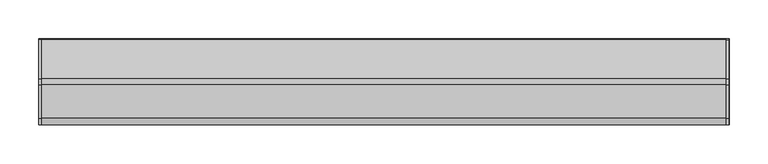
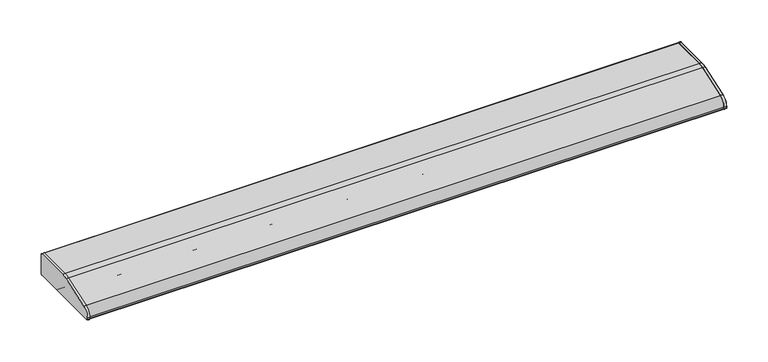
"""IFC4 building model written with IfcOpenShell, lengths in millimetres: light fixture geometry, HermanMiller_SupplementalProducts_G6136_UtilityTaskLight : AO Etho Canvas 42W."""

from ifc_helpers import new_model, si_unit, point, frame, frame_2d, origin, place, context, project, spatial, polyline, circle_curve, trimmed, segment, composite_curve, outline, extrude, source, transform, mapped, element, save


def light_fixture_843a8269(model_context):
    return source(origin(), model_context, "Body", "SweptSolid", [
        extrude(outline(composite_curve([segment(polyline([(53.975, 1562.1), (-53.975, 1562.1)]), True, "CONTINUOUS"), segment(trimmed(circle_curve(frame_2d((-53.975, 1563.6875)), 1.5875), [point((-53.975, 1562.1))], [point((-55.5625, 1563.6875))], False, "CARTESIAN"), True, "CONTINUOUS"), segment(polyline([(-55.5625, 1563.6875), (-55.5625, 1565.7285714)]), True, "CONTINUOUS"), segment(trimmed(circle_curve(frame_2d((-42.8625, 1565.7285714)), 12.7), [point((-55.5625, 1565.7285714))], [point((-46.9814189, 1577.7420849))], False, "CARTESIAN"), True, "CONTINUOUS"), segment(polyline([(-46.9814189, 1577.7420849), (-4.0045045, 1592.477027)]), True, "CONTINUOUS"), segment(trimmed(circle_curve(frame_2d((4.2333333, 1568.45)), 25.4), [point((-4.0045045, 1592.477027))], [point((4.2333333, 1593.85))], False, "CARTESIAN"), True, "CONTINUOUS"), segment(polyline([(4.2333333, 1593.85), (53.975, 1593.85)]), True, "CONTINUOUS"), segment(trimmed(circle_curve(frame_2d((53.975, 1592.2625)), 1.5875), [point((53.975, 1593.85))], [point((55.5625, 1592.2625))], False, "CARTESIAN"), True, "CONTINUOUS"), segment(polyline([(55.5625, 1592.2625), (55.5625, 1563.6875)]), True, "CONTINUOUS"), segment(trimmed(circle_curve(frame_2d((53.975, 1563.6875)), 1.5875), [point((55.5625, 1563.6875))], [point((53.975, 1562.1))], False, "CARTESIAN"), True, "CONTINUOUS")], self_intersect=False)), frame((441.833, 0.0, 0.0), z_axis=(1.0, 0.0, 0.0), x_axis=(0.0, 1.0, 0.0)), (0.0, 0.0, 1.0), 3.175),
        extrude(outline(composite_curve([segment(trimmed(circle_curve(frame_2d((53.975, 1592.2625)), 1.5875), [point((53.975, 1593.85))], [point((55.5625, 1592.2625))], False, "CARTESIAN"), True, "CONTINUOUS"), segment(polyline([(55.5625, 1592.2625), (55.5625, 1563.6875)]), True, "CONTINUOUS"), segment(trimmed(circle_curve(frame_2d((53.975, 1563.6875)), 1.5875), [point((55.5625, 1563.6875))], [point((53.975, 1562.1))], False, "CARTESIAN"), True, "CONTINUOUS"), segment(polyline([(53.975, 1562.1), (-53.975, 1562.1)]), True, "CONTINUOUS"), segment(trimmed(circle_curve(frame_2d((-53.975, 1563.6875)), 1.5875), [point((-53.975, 1562.1))], [point((-55.5625, 1563.6875))], False, "CARTESIAN"), True, "CONTINUOUS"), segment(polyline([(-55.5625, 1563.6875), (-55.5625, 1565.7285714)]), True, "CONTINUOUS"), segment(trimmed(circle_curve(frame_2d((-42.8625, 1565.7285714)), 12.7), [point((-55.5625, 1565.7285714))], [point((-46.9814189, 1577.7420849))], False, "CARTESIAN"), True, "CONTINUOUS"), segment(polyline([(-46.9814189, 1577.7420849), (-4.0045045, 1592.477027)]), True, "CONTINUOUS"), segment(trimmed(circle_curve(frame_2d((4.2333333, 1568.45)), 25.4), [point((-4.0045045, 1592.477027))], [point((4.2333333, 1593.85))], False, "CARTESIAN"), True, "CONTINUOUS"), segment(polyline([(4.2333333, 1593.85), (53.975, 1593.85)]), True, "CONTINUOUS")], self_intersect=False)), frame((-445.008, 0.0, 0.0), z_axis=(1.0, 0.0, 0.0), x_axis=(0.0, 1.0, 0.0)), (0.0, 0.0, 1.0), 3.175),
        extrude(outline(composite_curve([segment(polyline([(55.5625, 1592.2625), (55.5625, 1563.6875)]), True, "CONTINUOUS"), segment(trimmed(circle_curve(frame_2d((53.975, 1563.6875)), 1.5875), [point((55.5625, 1563.6875))], [point((53.975, 1562.1))], False, "CARTESIAN"), True, "CONTINUOUS"), segment(polyline([(53.975, 1562.1), (19.05, 1562.1)]), True, "CONTINUOUS"), segment(trimmed(circle_curve(frame_2d((19.05, 1563.6875)), 1.5875), [point((19.05, 1562.1))], [point((17.4625, 1563.6875))], False, "CARTESIAN"), True, "CONTINUOUS"), segment(polyline([(17.4625, 1563.6875), (17.4625, 1592.2625), (4.4979167, 1592.2625)]), True, "CONTINUOUS"), segment(trimmed(circle_curve(frame_2d((4.4979167, 1566.8625)), 25.4), [point((4.4979167, 1592.2625))], [point((-3.7399212, 1590.889527))], True, "CARTESIAN"), True, "CONTINUOUS"), segment(polyline([(-3.7399212, 1590.889527), (-37.4564189, 1579.3295849)]), True, "CONTINUOUS"), segment(trimmed(circle_curve(frame_2d((-33.3375, 1567.3160714)), 12.7), [point((-37.4564189, 1579.3295849))], [point((-46.0375, 1567.3160714))], True, "CARTESIAN"), True, "CONTINUOUS"), segment(polyline([(-46.0375, 1567.3160714), (-46.0375, 1563.6875)]), True, "CONTINUOUS"), segment(trimmed(circle_curve(frame_2d((-47.625, 1563.6875)), 1.5875), [point((-46.0375, 1563.6875))], [point((-47.625, 1562.1))], False, "CARTESIAN"), True, "CONTINUOUS"), segment(polyline([(-47.625, 1562.1), (-53.975, 1562.1)]), True, "CONTINUOUS"), segment(trimmed(circle_curve(frame_2d((-53.975, 1563.6875)), 1.5875), [point((-53.975, 1562.1))], [point((-55.5625, 1563.6875))], False, "CARTESIAN"), True, "CONTINUOUS"), segment(polyline([(-55.5625, 1563.6875), (-55.5625, 1565.7285714)]), True, "CONTINUOUS"), segment(trimmed(circle_curve(frame_2d((-42.8625, 1565.7285714)), 12.7), [point((-55.5625, 1565.7285714))], [point((-46.9814189, 1577.7420849))], False, "CARTESIAN"), True, "CONTINUOUS"), segment(polyline([(-46.9814189, 1577.7420849), (-4.0045045, 1592.477027)]), True, "CONTINUOUS"), segment(trimmed(circle_curve(frame_2d((4.2333333, 1568.45)), 25.4), [point((-4.0045045, 1592.477027))], [point((4.2333333, 1593.85))], False, "CARTESIAN"), True, "CONTINUOUS"), segment(polyline([(4.2333333, 1593.85), (53.975, 1593.85)]), True, "CONTINUOUS"), segment(trimmed(circle_curve(frame_2d((53.975, 1592.2625)), 1.5875), [point((53.975, 1593.85))], [point((55.5625, 1592.2625))], False, "CARTESIAN"), True, "CONTINUOUS")], self_intersect=False)), frame((-445.008, 0.0, 0.0), z_axis=(1.0, 0.0, 0.0), x_axis=(0.0, 1.0, 0.0)), (0.0, 0.0, 1.0), 890.4820011),
        extrude(outline(composite_curve([segment(trimmed(circle_curve(frame_2d((1.5875, 1579.5625)), 9.525), [point((-7.9375, 1579.5625))], [point((11.1125, 1579.5625))], False, "CARTESIAN"), True, "CONTINUOUS"), segment(trimmed(circle_curve(frame_2d((1.5875, 1579.5625)), 9.525), [point((11.1125, 1579.5625))], [point((-7.9375, 1579.5625))], False, "CARTESIAN"), True, "CONTINUOUS")], self_intersect=False)), frame((419.608, 0.0, 0.0), z_axis=(1.0, 0.0, 0.0), x_axis=(0.0, 1.0, 0.0)), (0.0, 0.0, 1.0), 12.7),
        extrude(outline(composite_curve([segment(trimmed(circle_curve(frame_2d((1.5875, 1579.5625)), 9.525), [point((-7.9375, 1579.5625))], [point((11.1125, 1579.5625))], False, "CARTESIAN"), True, "CONTINUOUS"), segment(trimmed(circle_curve(frame_2d((1.5875, 1579.5625)), 9.525), [point((11.1125, 1579.5625))], [point((-7.9375, 1579.5625))], False, "CARTESIAN"), True, "CONTINUOUS")], self_intersect=False)), frame((-432.308, 0.0, 0.0), z_axis=(1.0, 0.0, 0.0), x_axis=(0.0, 1.0, 0.0)), (0.0, 0.0, 1.0), 12.7),
        extrude(outline(composite_curve([segment(trimmed(circle_curve(frame_2d((1.5875, 1579.5625)), 9.525), [point((-7.9375, 1579.5625))], [point((11.1125, 1579.5625))], False, "CARTESIAN"), True, "CONTINUOUS"), segment(trimmed(circle_curve(frame_2d((1.5875, 1579.5625)), 9.525), [point((11.1125, 1579.5625))], [point((-7.9375, 1579.5625))], False, "CARTESIAN"), True, "CONTINUOUS")], self_intersect=False)), frame((-419.608, 0.0, 0.0), z_axis=(1.0, 0.0, 0.0), x_axis=(0.0, 1.0, 0.0)), (0.0, 0.0, 1.0), 839.216),
        extrude(outline(composite_curve([segment(polyline([(17.4625, 1565.275), (-46.0375, 1565.275), (-46.0375, 1567.3160714)]), True, "CONTINUOUS"), segment(trimmed(circle_curve(frame_2d((-33.3375, 1567.3160714)), 12.7), [point((-46.0375, 1567.3160714))], [point((-37.4564189, 1579.3295849))], False, "CARTESIAN"), True, "CONTINUOUS"), segment(polyline([(-37.4564189, 1579.3295849), (-3.7399212, 1590.889527)]), True, "CONTINUOUS"), segment(trimmed(circle_curve(frame_2d((4.4979167, 1566.8625)), 25.4), [point((-3.7399212, 1590.889527))], [point((4.4979167, 1592.2625))], False, "CARTESIAN"), True, "CONTINUOUS"), segment(polyline([(4.4979167, 1592.2625), (17.4625, 1592.2625), (17.4625, 1565.275)]), True, "CONTINUOUS")], self_intersect=False)), frame((432.308, 0.0, 0.0), z_axis=(1.0, 0.0, 0.0), x_axis=(0.0, 1.0, 0.0)), (0.0, 0.0, 1.0), 9.525),
        extrude(outline(composite_curve([segment(polyline([(17.4625, 1565.275), (-46.0375, 1565.275), (-46.0375, 1567.3160714)]), True, "CONTINUOUS"), segment(trimmed(circle_curve(frame_2d((-33.3375, 1567.3160714)), 12.7), [point((-46.0375, 1567.3160714))], [point((-37.4564189, 1579.3295849))], False, "CARTESIAN"), True, "CONTINUOUS"), segment(polyline([(-37.4564189, 1579.3295849), (-3.7399212, 1590.889527)]), True, "CONTINUOUS"), segment(trimmed(circle_curve(frame_2d((4.4979167, 1566.8625)), 25.4), [point((-3.7399212, 1590.889527))], [point((4.4979167, 1592.2625))], False, "CARTESIAN"), True, "CONTINUOUS"), segment(polyline([(4.4979167, 1592.2625), (17.4625, 1592.2625), (17.4625, 1565.275)]), True, "CONTINUOUS")], self_intersect=False)), frame((-441.833, 0.0, 0.0), z_axis=(1.0, 0.0, 0.0), x_axis=(0.0, 1.0, 0.0)), (0.0, 0.0, 1.0), 9.525),
    ])


if __name__ == "__main__":
    model = new_model("IFC4")
    model_context = context("Model", 3, world=origin())
    ifc_project = project(units=[si_unit("LENGTHUNIT", "METRE", prefix="MILLI")], contexts=[model_context])
    site = spatial("IfcSite", under=ifc_project)
    building = spatial("IfcBuilding", under=site)
    placement = place(None, origin())
    light_fixture_shape = light_fixture_843a8269(model_context)
    element("IfcLightFixture", 1, ObjectType="HermanMiller_SupplementalProducts_G6136_UtilityTaskLight : AO Etho Canvas 42W", at=placement, inside=building, context=model_context, shape_type="MappedRepresentation", body=[
        mapped(light_fixture_shape, transform((0.0, 0.0, 0.0), x_axis=(1.0, 0.0, 0.0), y_axis=(0.0, 1.0, 0.0), z_axis=(0.0, 0.0, 1.0))),
    ])
    save(model, "model.ifc")
